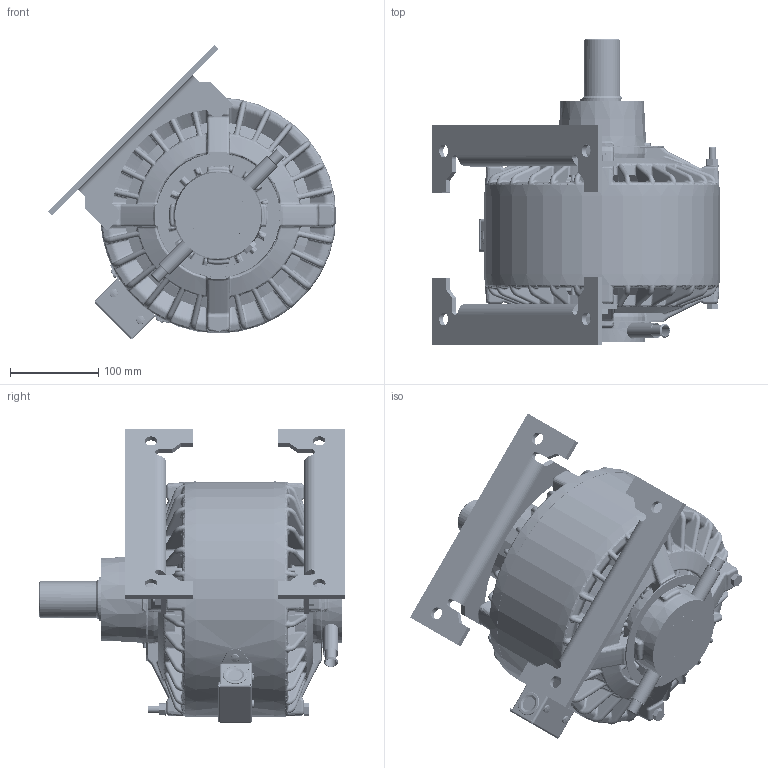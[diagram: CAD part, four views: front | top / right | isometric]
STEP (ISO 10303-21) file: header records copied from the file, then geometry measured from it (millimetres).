
FILE_DESCRIPTION(/* description */ ('STEP AP214'),/* implementation_level */ '2;1');
FILE_NAME(/* name */ '100MBW90B20_stp.step',/* time_stamp */ '2026-05-13T11:54:56-05:00',/* author */ (''),/* organization */ (''),/* preprocessor_version */ 'ST-DEVELOPER v20.1',/* originating_system */ 'Autodesk Translation Framework v15.8.0.0',/* authorisation */ '');
FILE_SCHEMA (('AUTOMOTIVE_DESIGN { 1 0 10303 214 3 1 1 }'));
Products named in the file (1): 100MBW90B20_asm_stp
Bounding box: 326.81 x 346.6 x 333.09 mm (x, y, z)
Volume: 5065498.7 mm3; surface area: 979380 mm2
Topology: 5 solids, 16 shells, 4451 faces, 11189 edges, 6478 vertices
Faces by surface type: bspline 1629, cylinder 1057, plane 901, torus 526, cone 274, sphere 64
Full cylindrical faces by diameter (mm): 2.642 x4, 3.795 x4, 4.039 x4, 6.35 x4, 7.938 x10, 9.474 x4, 9.525 x7, 10.319 x1, 10.795 x1, 12.522 x2, 12.7 x1, 13.573 x1, 14.275 x4, 14.685 x2, 17.145 x2, 17.475 x1, 18.237 x2, 19.05 x1, 22.225 x3, 31.75 x1, 41.237 x1, 42.469 x2, 43.663 x1, 45.009 x6, 45.014 x1, 51 x4, 63.5 x1, 63.551 x1, 66.9 x2, 69 x4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
Entity records: 205297 total; most frequent: CARTESIAN_POINT 110450, ORIENTED_EDGE 21956, DIRECTION 17649, EDGE_CURVE 10978, AXIS2_PLACEMENT_3D 7403, VERTEX_POINT 6486, EDGE_LOOP 4598, FACE_OUTER_BOUND 4451
